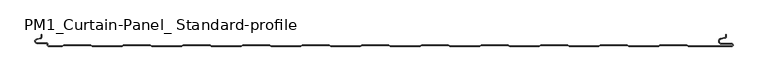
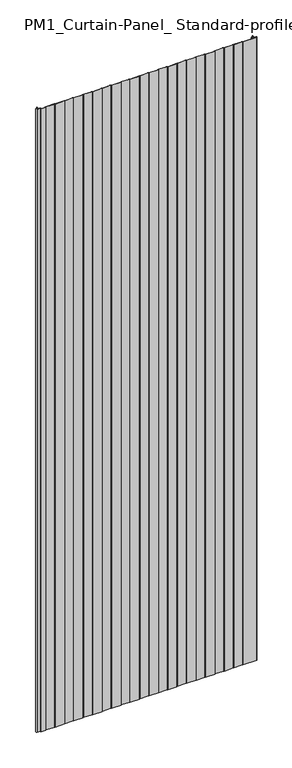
"""IFC4 building model written with IfcOpenShell, lengths in millimetres: plate geometry, PM1_Curtain-Panel_ Standard-profile : ACH_PM1_Acoustic-Sectioning-Panel_80M."""

from ifc_helpers import new_model, si_unit, frame, origin, place, context, project, spatial, polyline, circle_curve, source, transform, mapped, element, save
from ifc_brep_helpers import plane_surface, cylinder_surface, revolved_surface, advanced_brep


def pm1_curtain_panel_standard_profile_f790478e(model_context):
    return source(origin(), model_context, "Body", "AdvancedBrep", [
        advanced_brep(
        [(-562.4, -80.0, 3500.0), (-539.3999999, -80.0, 3500.0), (-536.8019223, -78.5, 3500.0), (-492.0019247, -78.5, 3500.0), (-489.4038471, -80.0, 3500.0), (-439.3999999, -80.0, 3500.0), (-436.8019223, -78.5, 3500.0), (-392.0019247, -78.5, 3500.0), (-389.4038471, -80.0, 3500.0), (-339.3999999, -80.0, 3500.0), (-336.8019223, -78.5, 3500.0), (-292.0019247, -78.5, 3500.0), (-289.4038471, -80.0, 3500.0), (-239.3999999, -80.0, 3500.0), (-236.8019223, -78.5, 3500.0), (-192.0019247, -78.5, 3500.0), (-189.4038471, -80.0, 3500.0), (-139.3999999, -80.0, 3500.0), (-136.8019223, -78.5, 3500.0), (-92.0019247, -78.5, 3500.0), (-89.4038471, -80.0, 3500.0), (-39.3999999, -80.0, 3500.0), (-36.8019223, -78.5, 3500.0), (7.9980753, -78.5, 3500.0), (10.5961529, -80.0, 3500.0), (60.6000001, -80.0, 3500.0), (63.1980777, -78.5, 3500.0), (107.9980753, -78.5, 3500.0), (110.5961529, -80.0, 3500.0), (160.6000001, -80.0, 3500.0), (163.1980777, -78.5, 3500.0), (207.9980753, -78.5, 3500.0), (210.5961529, -80.0, 3500.0), (260.6000001, -80.0, 3500.0), (263.1980777, -78.5, 3500.0), (307.9980753, -78.5, 3500.0), (310.5961529, -80.0, 3500.0), (360.6000001, -80.0, 3500.0), (363.1980777, -78.5, 3500.0), (407.9980753, -78.5, 3500.0), (410.5961529, -80.0, 3500.0), (460.6000001, -80.0, 3500.0), (463.1980777, -78.5, 3500.0), (507.9980753, -78.5, 3500.0), (510.5961529, -80.0, 3500.0), (583.1, -80.0, 3500.0), (585.6, -77.5, 3500.0), (583.1, -75.0, 3500.0), (566.1, -75.0, 3500.0), (565.4054075, -67.060769, 3500.0), (571.8514851, -65.924152, 3500.0), (574.0, -63.363652, 3500.0), (574.0, -60.0, 3500.0), (573.2, -60.0, 3500.0), (573.2, -63.363652, 3500.0), (571.7125666, -65.136306, 3500.0), (565.266489, -66.2729229, 3500.0), (566.1, -75.8, 3500.0), (583.1, -75.8, 3500.0), (583.1, -79.2, 3500.0), (510.8105122, -79.2, 3500.0), (508.2124346, -77.7, 3500.0), (462.9837184, -77.7, 3500.0), (460.3856408, -79.2, 3500.0), (410.8105122, -79.2, 3500.0), (408.2124346, -77.7, 3500.0), (362.9837184, -77.7, 3500.0), (360.3856408, -79.2, 3500.0), (310.8105122, -79.2, 3500.0), (308.2124346, -77.7, 3500.0), (262.9837184, -77.7, 3500.0), (260.3856408, -79.2, 3500.0), (210.8105122, -79.2, 3500.0), (208.2124346, -77.7, 3500.0), (162.9837184, -77.7, 3500.0), (160.3856408, -79.2, 3500.0), (110.8105122, -79.2, 3500.0), (108.2124346, -77.7, 3500.0), (62.9837184, -77.7, 3500.0), (60.3856408, -79.2, 3500.0), (10.8105122, -79.2, 3500.0), (8.2124346, -77.7, 3500.0), (-37.0162816, -77.7, 3500.0), (-39.6143592, -79.2, 3500.0), (-89.1894878, -79.2, 3500.0), (-91.7875654, -77.7, 3500.0), (-137.0162816, -77.7, 3500.0), (-139.6143592, -79.2, 3500.0), (-189.1894878, -79.2, 3500.0), (-191.7875654, -77.7, 3500.0), (-237.0162816, -77.7, 3500.0), (-239.6143592, -79.2, 3500.0), (-289.1894878, -79.2, 3500.0), (-291.7875654, -77.7, 3500.0), (-337.0162816, -77.7, 3500.0), (-339.6143592, -79.2, 3500.0), (-389.1894878, -79.2, 3500.0), (-391.7875654, -77.7, 3500.0), (-437.0162816, -77.7, 3500.0), (-439.6143592, -79.2, 3500.0), (-489.1894878, -79.2, 3500.0), (-491.7875654, -77.7, 3500.0), (-537.0162816, -77.7, 3500.0), (-539.6143592, -79.2, 3500.0), (-562.4, -79.2, 3500.0), (-563.6, -78.0, 3500.0), (-563.6, -76.6, 3500.0), (-566.4, -73.8, 3500.0), (-581.9, -73.8, 3500.0), (-582.529863, -68.2717638, 3500.0), (-576.370137, -66.849679, 3500.0), (-574.2, -64.121443, 3500.0), (-574.2, -60.0, 3500.0), (-575.0, -60.0, 3500.0), (-575.0, -64.121443, 3500.0), (-576.5500978, -66.0701831, 3500.0), (-582.7098239, -67.492268, 3500.0), (-581.9, -74.6, 3500.0), (-566.4, -74.6, 3500.0), (-564.4, -76.6, 3500.0), (-564.4, -78.0, 3500.0), (-562.4, -80.0, 0.0), (-564.4, -78.0, 0.0), (-564.4, -76.6, 0.0), (-566.4, -74.6, 0.0), (-581.9, -74.6, 0.0), (-582.7098239, -67.4922678, 0.0), (-576.5500979, -66.070183, 0.0), (-575.0, -64.121443, 0.0), (-575.0, -60.0, 0.0), (-574.2, -60.0, 0.0), (-574.2, -64.121443, 0.0), (-576.370137, -66.8496792, 0.0), (-582.529863, -68.271764, 0.0), (-581.9, -73.8, 0.0), (-566.4, -73.8, 0.0), (-563.6, -76.6, 0.0), (-563.6, -78.0, 0.0), (-562.4, -79.2, 0.0), (-539.6143592, -79.2, 0.0), (-537.0162816, -77.7, 0.0), (-491.7875654, -77.7, 0.0), (-489.1894878, -79.2, 0.0), (-439.6143592, -79.2, 0.0), (-437.0162816, -77.7, 0.0), (-391.7875654, -77.7, 0.0), (-389.1894878, -79.2, 0.0), (-339.6143592, -79.2, 0.0), (-337.0162816, -77.7, 0.0), (-291.7875654, -77.7, 0.0), (-289.1894878, -79.2, 0.0), (-239.6143592, -79.2, 0.0), (-237.0162816, -77.7, 0.0), (-191.7875654, -77.7, 0.0), (-189.1894878, -79.2, 0.0), (-139.6143592, -79.2, 0.0), (-137.0162816, -77.7, 0.0), (-91.7875654, -77.7, 0.0), (-89.1894878, -79.2, 0.0), (-39.6143592, -79.2, 0.0), (-37.0162816, -77.7, 0.0), (8.2124346, -77.7, 0.0), (10.8105122, -79.2, 0.0), (60.3856408, -79.2, 0.0), (62.9837184, -77.7, 0.0), (108.2124346, -77.7, 0.0), (110.8105122, -79.2, 0.0), (160.3856408, -79.2, 0.0), (162.9837184, -77.7, 0.0), (208.2124346, -77.7, 0.0), (210.8105122, -79.2, 0.0), (260.3856408, -79.2, 0.0), (262.9837184, -77.7, 0.0), (308.2124346, -77.7, 0.0), (310.8105122, -79.2, 0.0), (360.3856408, -79.2, 0.0), (362.9837184, -77.7, 0.0), (408.2124346, -77.7, 0.0), (410.8105122, -79.2, 0.0), (460.3856408, -79.2, 0.0), (462.9837184, -77.7, 0.0), (508.2124346, -77.7, 0.0), (510.8105122, -79.2, 0.0), (583.1, -79.2, 0.0), (583.1, -75.8, 0.0), (566.1, -75.8, 0.0), (565.266489, -66.2729227, 0.0), (571.7125666, -65.1363058, 0.0), (573.2, -63.363652, 0.0), (573.2, -60.0, 0.0), (574.0, -60.0, 0.0), (574.0, -63.363652, 0.0), (571.8514851, -65.9241522, 0.0), (565.4054075, -67.0607691, 0.0), (566.1, -75.0, 0.0), (583.1, -75.0, 0.0), (585.6, -77.5, 0.0), (583.1, -80.0, 0.0), (510.5961529, -80.0, 0.0), (507.9980753, -78.5, 0.0), (463.1980777, -78.5, 0.0), (460.6000001, -80.0, 0.0), (410.5961529, -80.0, 0.0), (407.9980753, -78.5, 0.0), (363.1980777, -78.5, 0.0), (360.6000001, -80.0, 0.0), (310.5961529, -80.0, 0.0), (307.9980753, -78.5, 0.0), (263.1980777, -78.5, 0.0), (260.6000001, -80.0, 0.0), (210.5961529, -80.0, 0.0), (207.9980753, -78.5, 0.0), (163.1980777, -78.5, 0.0), (160.6000001, -80.0, 0.0), (110.5961529, -80.0, 0.0), (107.9980753, -78.5, 0.0), (63.1980777, -78.5, 0.0), (60.6000001, -80.0, 0.0), (10.5961529, -80.0, 0.0), (7.9980753, -78.5, 0.0), (-36.8019223, -78.5, 0.0), (-39.3999999, -80.0, 0.0), (-89.4038471, -80.0, 0.0), (-92.0019247, -78.5, 0.0), (-136.8019223, -78.5, 0.0), (-139.3999999, -80.0, 0.0), (-189.4038471, -80.0, 0.0), (-192.0019247, -78.5, 0.0), (-236.8019223, -78.5, 0.0), (-239.3999999, -80.0, 0.0), (-289.4038471, -80.0, 0.0), (-292.0019247, -78.5, 0.0), (-336.8019223, -78.5, 0.0), (-339.3999999, -80.0, 0.0), (-389.4038471, -80.0, 0.0), (-392.0019247, -78.5, 0.0), (-436.8019223, -78.5, 0.0), (-439.3999999, -80.0, 0.0), (-489.4038471, -80.0, 0.0), (-492.0019247, -78.5, 0.0), (-536.8019223, -78.5, 0.0), (-539.3999999, -80.0, 0.0)],
        [
            (0, 1),
            (1, 2),
            (2, 3),
            (3, 4),
            (4, 5),
            (5, 6),
            (6, 7),
            (7, 8),
            (8, 9),
            (9, 10),
            (10, 11),
            (11, 12),
            (12, 13),
            (13, 14),
            (14, 15),
            (15, 16),
            (16, 17),
            (17, 18),
            (18, 19),
            (19, 20),
            (20, 21),
            (21, 22),
            (22, 23),
            (23, 24),
            (24, 25),
            (25, 26),
            (26, 27),
            (27, 28),
            (28, 29),
            (29, 30),
            (30, 31),
            (31, 32),
            (32, 33),
            (33, 34),
            (34, 35),
            (35, 36),
            (36, 37),
            (37, 38),
            (38, 39),
            (39, 40),
            (40, 41),
            (41, 42),
            (42, 43),
            (43, 44),
            (44, 45),
            (45, 46, circle_curve(frame((583.1, -77.5, 3500.0), z_axis=(0.0, 0.0, 1.0), x_axis=(1.0, 0.0, 0.0)), 2.5)),
            (46, 47, circle_curve(frame((583.1, -77.5, 3500.0), z_axis=(0.0, 0.0, 1.0), x_axis=(1.0, 0.0, 0.0)), 2.5)),
            (47, 48),
            (48, 49, circle_curve(frame((566.1, -71.0, 3500.0), z_axis=(0.0, 0.0, -1.0), x_axis=(1.0, 0.0, 0.0)), 4.0)),
            (49, 50),
            (50, 51, circle_curve(frame((571.4, -63.363652, 3500.0), z_axis=(0.0, 0.0, 1.0), x_axis=(1.0, 0.0, 0.0)), 2.6)),
            (51, 52),
            (52, 53),
            (53, 54),
            (54, 55, circle_curve(frame((571.4, -63.363652, 3500.0), z_axis=(0.0, 0.0, -1.0), x_axis=(1.0, 0.0, 0.0)), 1.8)),
            (55, 56),
            (56, 57, circle_curve(frame((566.1, -71.0, 3500.0), z_axis=(0.0, 0.0, 1.0), x_axis=(1.0, 0.0, 0.0)), 4.8)),
            (57, 58),
            (58, 59, circle_curve(frame((583.1, -77.5, 3500.0), z_axis=(0.0, 0.0, -1.0), x_axis=(1.0, 0.0, 0.0)), 1.7)),
            (59, 60),
            (60, 61),
            (61, 62),
            (62, 63),
            (63, 64),
            (64, 65),
            (65, 66),
            (66, 67),
            (67, 68),
            (68, 69),
            (69, 70),
            (70, 71),
            (71, 72),
            (72, 73),
            (73, 74),
            (74, 75),
            (75, 76),
            (76, 77),
            (77, 78),
            (78, 79),
            (79, 80),
            (80, 81),
            (81, 82),
            (82, 83),
            (83, 84),
            (84, 85),
            (85, 86),
            (86, 87),
            (87, 88),
            (88, 89),
            (89, 90),
            (90, 91),
            (91, 92),
            (92, 93),
            (93, 94),
            (94, 95),
            (95, 96),
            (96, 97),
            (97, 98),
            (98, 99),
            (99, 100),
            (100, 101),
            (101, 102),
            (102, 103),
            (103, 104),
            (104, 105, circle_curve(frame((-562.4, -78.0, 3500.0), z_axis=(0.0, 0.0, -1.0), x_axis=(1.0, 0.0, 0.0)), 1.2)),
            (105, 106),
            (106, 107, circle_curve(frame((-566.4, -76.6, 3500.0), z_axis=(0.0, 0.0, 1.0), x_axis=(1.0, 0.0, 0.0)), 2.8)),
            (107, 108),
            (108, 109, circle_curve(frame((-581.9, -71.0, 3500.0), z_axis=(0.0, 0.0, -1.0), x_axis=(1.0, 0.0, 0.0)), 2.8)),
            (109, 110),
            (110, 111, circle_curve(frame((-577.0, -64.121443, 3500.0), z_axis=(0.0, 0.0, 1.0), x_axis=(1.0, 0.0, 0.0)), 2.8)),
            (111, 112),
            (112, 113),
            (113, 114),
            (114, 115, circle_curve(frame((-577.0, -64.121443, 3500.0), z_axis=(0.0, 0.0, -1.0), x_axis=(1.0, 0.0, 0.0)), 2.0)),
            (115, 116),
            (116, 117, circle_curve(frame((-581.9, -71.0, 3500.0), z_axis=(0.0, 0.0, 1.0), x_axis=(1.0, 0.0, 0.0)), 3.6)),
            (117, 118),
            (118, 119, circle_curve(frame((-566.4, -76.6, 3500.0), z_axis=(0.0, 0.0, -1.0), x_axis=(1.0, 0.0, 0.0)), 2.0)),
            (119, 120),
            (120, 0, circle_curve(frame((-562.4, -78.0, 3500.0), z_axis=(0.0, 0.0, 1.0), x_axis=(1.0, 0.0, 0.0)), 2.0)),
            (121, 122, circle_curve(frame((-562.4, -78.0, 0.0), z_axis=(0.0, 0.0, -1.0), x_axis=(1.0, 0.0, 0.0)), 2.0)),
            (122, 123),
            (123, 124, circle_curve(frame((-566.4, -76.6, 0.0), z_axis=(0.0, 0.0, 1.0), x_axis=(1.0, 0.0, 0.0)), 2.0)),
            (124, 125),
            (125, 126, circle_curve(frame((-581.9, -71.0, 0.0), z_axis=(0.0, 0.0, -1.0), x_axis=(1.0, 0.0, 0.0)), 3.6)),
            (126, 127),
            (127, 128, circle_curve(frame((-577.0, -64.121443, 0.0), z_axis=(0.0, 0.0, 1.0), x_axis=(1.0, 0.0, 0.0)), 2.0)),
            (128, 129),
            (129, 130),
            (130, 131),
            (131, 132, circle_curve(frame((-577.0, -64.121443, 0.0), z_axis=(0.0, 0.0, -1.0), x_axis=(1.0, 0.0, 0.0)), 2.8)),
            (132, 133),
            (133, 134, circle_curve(frame((-581.9, -71.0, 0.0), z_axis=(0.0, 0.0, 1.0), x_axis=(1.0, 0.0, 0.0)), 2.8)),
            (134, 135),
            (135, 136, circle_curve(frame((-566.4, -76.6, 0.0), z_axis=(0.0, 0.0, -1.0), x_axis=(1.0, 0.0, 0.0)), 2.8)),
            (136, 137),
            (137, 138, circle_curve(frame((-562.4, -78.0, 0.0), z_axis=(0.0, 0.0, 1.0), x_axis=(1.0, 0.0, 0.0)), 1.2)),
            (138, 139),
            (139, 140),
            (140, 141),
            (141, 142),
            (142, 143),
            (143, 144),
            (144, 145),
            (145, 146),
            (146, 147),
            (147, 148),
            (148, 149),
            (149, 150),
            (150, 151),
            (151, 152),
            (152, 153),
            (153, 154),
            (154, 155),
            (155, 156),
            (156, 157),
            (157, 158),
            (158, 159),
            (159, 160),
            (160, 161),
            (161, 162),
            (162, 163),
            (163, 164),
            (164, 165),
            (165, 166),
            (166, 167),
            (167, 168),
            (168, 169),
            (169, 170),
            (170, 171),
            (171, 172),
            (172, 173),
            (173, 174),
            (174, 175),
            (175, 176),
            (176, 177),
            (177, 178),
            (178, 179),
            (179, 180),
            (180, 181),
            (181, 182),
            (182, 183),
            (183, 184, circle_curve(frame((583.1, -77.5, 0.0), z_axis=(0.0, 0.0, 1.0), x_axis=(1.0, 0.0, 0.0)), 1.7)),
            (184, 185),
            (185, 186, circle_curve(frame((566.1, -71.0, 0.0), z_axis=(0.0, 0.0, -1.0), x_axis=(1.0, 0.0, 0.0)), 4.8)),
            (186, 187),
            (187, 188, circle_curve(frame((571.4, -63.363652, 0.0), z_axis=(0.0, 0.0, 1.0), x_axis=(1.0, 0.0, 0.0)), 1.8)),
            (188, 189),
            (189, 190),
            (190, 191),
            (191, 192, circle_curve(frame((571.4, -63.363652, 0.0), z_axis=(0.0, 0.0, -1.0), x_axis=(1.0, 0.0, 0.0)), 2.6)),
            (192, 193),
            (193, 194, circle_curve(frame((566.1, -71.0, 0.0), z_axis=(0.0, 0.0, 1.0), x_axis=(1.0, 0.0, 0.0)), 4.0)),
            (194, 195),
            (195, 196, circle_curve(frame((583.1, -77.5, 0.0), z_axis=(0.0, 0.0, -1.0), x_axis=(1.0, 0.0, 0.0)), 2.5)),
            (196, 197, circle_curve(frame((583.1, -77.5, 0.0), z_axis=(0.0, 0.0, -1.0), x_axis=(1.0, 0.0, 0.0)), 2.5)),
            (197, 198),
            (198, 199),
            (199, 200),
            (200, 201),
            (201, 202),
            (202, 203),
            (203, 204),
            (204, 205),
            (205, 206),
            (206, 207),
            (207, 208),
            (208, 209),
            (209, 210),
            (210, 211),
            (211, 212),
            (212, 213),
            (213, 214),
            (214, 215),
            (215, 216),
            (216, 217),
            (217, 218),
            (218, 219),
            (219, 220),
            (220, 221),
            (221, 222),
            (222, 223),
            (223, 224),
            (224, 225),
            (225, 226),
            (226, 227),
            (227, 228),
            (228, 229),
            (229, 230),
            (230, 231),
            (231, 232),
            (232, 233),
            (233, 234),
            (234, 235),
            (235, 236),
            (236, 237),
            (237, 238),
            (238, 239),
            (239, 240),
            (240, 241),
            (241, 121),
            (0, 121),
            (241, 1),
            (240, 2),
            (239, 3),
            (238, 4),
            (237, 5),
            (236, 6),
            (235, 7),
            (234, 8),
            (233, 9),
            (232, 10),
            (231, 11),
            (230, 12),
            (229, 13),
            (228, 14),
            (227, 15),
            (226, 16),
            (225, 17),
            (224, 18),
            (223, 19),
            (222, 20),
            (221, 21),
            (220, 22),
            (219, 23),
            (218, 24),
            (217, 25),
            (216, 26),
            (215, 27),
            (214, 28),
            (213, 29),
            (212, 30),
            (211, 31),
            (210, 32),
            (209, 33),
            (208, 34),
            (207, 35),
            (206, 36),
            (205, 37),
            (204, 38),
            (203, 39),
            (202, 40),
            (201, 41),
            (200, 42),
            (199, 43),
            (198, 44),
            (197, 45),
            (195, 47),
            (194, 48),
            (193, 49),
            (192, 50),
            (191, 51),
            (190, 52),
            (189, 53),
            (188, 54),
            (187, 55),
            (186, 56),
            (185, 57),
            (184, 58),
            (183, 59),
            (182, 60),
            (181, 61),
            (180, 62),
            (179, 63),
            (178, 64),
            (177, 65),
            (176, 66),
            (175, 67),
            (174, 68),
            (173, 69),
            (172, 70),
            (171, 71),
            (170, 72),
            (169, 73),
            (168, 74),
            (167, 75),
            (166, 76),
            (165, 77),
            (164, 78),
            (163, 79),
            (162, 80),
            (161, 81),
            (160, 82),
            (159, 83),
            (158, 84),
            (157, 85),
            (156, 86),
            (155, 87),
            (154, 88),
            (153, 89),
            (152, 90),
            (151, 91),
            (150, 92),
            (149, 93),
            (148, 94),
            (147, 95),
            (146, 96),
            (145, 97),
            (144, 98),
            (143, 99),
            (142, 100),
            (141, 101),
            (140, 102),
            (139, 103),
            (138, 104),
            (137, 105),
            (136, 106),
            (135, 107),
            (134, 108),
            (133, 109),
            (132, 110),
            (131, 111),
            (130, 112),
            (129, 113),
            (128, 114),
            (127, 115),
            (126, 116),
            (125, 117),
            (124, 118),
            (123, 119),
            (122, 120),
        ],
        [
            plane_surface(frame((-575.0, -80.0, 3500.0), z_axis=(0.0, 0.0, 1.0), x_axis=(0.0, 1.0, 0.0))),
            plane_surface(frame((-575.0, -80.0, 0.0), z_axis=(0.0, 0.0, -1.0), x_axis=(0.0, 1.0, 0.0))),
            plane_surface(frame((-562.4, -80.0, 3500.0), z_axis=(0.0, -1.0, 0.0), x_axis=(0.0, 0.0, -1.0))),
            plane_surface(frame((-539.3999999, -80.0, 3500.0), z_axis=(0.49999979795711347, -0.8660255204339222, 0.0), x_axis=(0.0, 0.0, -1.0))),
            plane_surface(frame((-536.8019223, -78.5, 3500.0), z_axis=(0.0, -1.0, 0.0), x_axis=(0.0, 0.0, -1.0))),
            plane_surface(frame((-492.0019247, -78.5, 3500.0), z_axis=(-0.49999979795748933, -0.8660255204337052, 0.0), x_axis=(0.0, 0.0, -1.0))),
            plane_surface(frame((-489.4038471, -80.0, 3500.0), z_axis=(0.0, -1.0, 0.0), x_axis=(0.0, 0.0, -1.0))),
            plane_surface(frame((-439.3999999, -80.0, 3500.0), z_axis=(0.49999979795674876, -0.8660255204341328, 0.0), x_axis=(0.0, 0.0, -1.0))),
            plane_surface(frame((-436.8019223, -78.5, 3500.0), z_axis=(0.0, -1.0, 0.0), x_axis=(0.0, 0.0, -1.0))),
            plane_surface(frame((-392.0019247, -78.5, 3500.0), z_axis=(-0.4999997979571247, -0.8660255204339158, 0.0), x_axis=(0.0, 0.0, -1.0))),
            plane_surface(frame((-389.4038471, -80.0, 3500.0), z_axis=(0.0, -1.0, 0.0), x_axis=(0.0, 0.0, -1.0))),
            plane_surface(frame((-339.3999999, -80.0, 3500.0), z_axis=(0.49999979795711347, -0.8660255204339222, 0.0), x_axis=(0.0, 0.0, -1.0))),
            plane_surface(frame((-336.8019223, -78.5, 3500.0), z_axis=(0.0, -1.0, 0.0), x_axis=(0.0, 0.0, -1.0))),
            plane_surface(frame((-292.0019247, -78.5, 3500.0), z_axis=(-0.4999997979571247, -0.8660255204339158, 0.0), x_axis=(0.0, 0.0, -1.0))),
            plane_surface(frame((-289.4038471, -80.0, 3500.0), z_axis=(0.0, -1.0, 0.0), x_axis=(0.0, 0.0, -1.0))),
            plane_surface(frame((-239.3999999, -80.0, 3500.0), z_axis=(0.49999979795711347, -0.8660255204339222, 0.0), x_axis=(0.0, 0.0, -1.0))),
            plane_surface(frame((-236.8019223, -78.5, 3500.0), z_axis=(0.0, -1.0, 0.0), x_axis=(0.0, 0.0, -1.0))),
            plane_surface(frame((-192.0019247, -78.5, 3500.0), z_axis=(-0.49999979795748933, -0.8660255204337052, 0.0), x_axis=(0.0, 0.0, -1.0))),
            plane_surface(frame((-189.4038471, -80.0, 3500.0), z_axis=(0.0, -1.0, 0.0), x_axis=(0.0, 0.0, -1.0))),
            plane_surface(frame((-139.3999999, -80.0, 3500.0), z_axis=(0.49999979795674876, -0.8660255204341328, 0.0), x_axis=(0.0, 0.0, -1.0))),
            plane_surface(frame((-136.8019223, -78.5, 3500.0), z_axis=(0.0, -1.0, 0.0), x_axis=(0.0, 0.0, -1.0))),
            plane_surface(frame((-92.0019247, -78.5, 3500.0), z_axis=(-0.4999997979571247, -0.8660255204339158, 0.0), x_axis=(0.0, 0.0, -1.0))),
            plane_surface(frame((-89.4038471, -80.0, 3500.0), z_axis=(0.0, -1.0, 0.0), x_axis=(0.0, 0.0, -1.0))),
            plane_surface(frame((-39.3999999, -80.0, 3500.0), z_axis=(0.49999979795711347, -0.8660255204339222, 0.0), x_axis=(0.0, 0.0, -1.0))),
            plane_surface(frame((-36.8019223, -78.5, 3500.0), z_axis=(0.0, -1.0, 0.0), x_axis=(0.0, 0.0, -1.0))),
            plane_surface(frame((7.9980753, -78.5, 3500.0), z_axis=(-0.4999997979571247, -0.8660255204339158, 0.0), x_axis=(0.0, 0.0, -1.0))),
            plane_surface(frame((10.5961529, -80.0, 3500.0), z_axis=(0.0, -1.0, 0.0), x_axis=(0.0, 0.0, -1.0))),
            plane_surface(frame((60.6000001, -80.0, 3500.0), z_axis=(0.49999979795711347, -0.8660255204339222, 0.0), x_axis=(0.0, 0.0, -1.0))),
            plane_surface(frame((63.1980777, -78.5, 3500.0), z_axis=(0.0, -1.0, 0.0), x_axis=(0.0, 0.0, -1.0))),
            plane_surface(frame((107.9980753, -78.5, 3500.0), z_axis=(-0.49999979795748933, -0.8660255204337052, 0.0), x_axis=(0.0, 0.0, -1.0))),
            plane_surface(frame((110.5961529, -80.0, 3500.0), z_axis=(0.0, -1.0, 0.0), x_axis=(0.0, 0.0, -1.0))),
            plane_surface(frame((160.6000001, -80.0, 3500.0), z_axis=(0.49999979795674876, -0.8660255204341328, 0.0), x_axis=(0.0, 0.0, -1.0))),
            plane_surface(frame((163.1980777, -78.5, 3500.0), z_axis=(0.0, -1.0, 0.0), x_axis=(0.0, 0.0, -1.0))),
            plane_surface(frame((207.9980753, -78.5, 3500.0), z_axis=(-0.4999997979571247, -0.8660255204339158, 0.0), x_axis=(0.0, 0.0, -1.0))),
            plane_surface(frame((210.5961529, -80.0, 3500.0), z_axis=(0.0, -1.0, 0.0), x_axis=(0.0, 0.0, -1.0))),
            plane_surface(frame((260.6000001, -80.0, 3500.0), z_axis=(0.49999979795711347, -0.8660255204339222, 0.0), x_axis=(0.0, 0.0, -1.0))),
            plane_surface(frame((263.1980777, -78.5, 3500.0), z_axis=(0.0, -1.0, 0.0), x_axis=(0.0, 0.0, -1.0))),
            plane_surface(frame((307.9980753, -78.5, 3500.0), z_axis=(-0.4999997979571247, -0.8660255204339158, 0.0), x_axis=(0.0, 0.0, -1.0))),
            plane_surface(frame((310.5961529, -80.0, 3500.0), z_axis=(0.0, -1.0, 0.0), x_axis=(0.0, 0.0, -1.0))),
            plane_surface(frame((360.6000001, -80.0, 3500.0), z_axis=(0.49999979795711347, -0.8660255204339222, 0.0), x_axis=(0.0, 0.0, -1.0))),
            plane_surface(frame((363.1980777, -78.5, 3500.0), z_axis=(0.0, -1.0, 0.0), x_axis=(0.0, 0.0, -1.0))),
            plane_surface(frame((407.9980753, -78.5, 3500.0), z_axis=(-0.49999979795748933, -0.8660255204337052, 0.0), x_axis=(0.0, 0.0, -1.0))),
            plane_surface(frame((410.5961529, -80.0, 3500.0), z_axis=(0.0, -1.0, 0.0), x_axis=(0.0, 0.0, -1.0))),
            plane_surface(frame((460.6000001, -80.0, 3500.0), z_axis=(0.49999979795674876, -0.8660255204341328, 0.0), x_axis=(0.0, 0.0, -1.0))),
            plane_surface(frame((463.1980777, -78.5, 3500.0), z_axis=(0.0, -1.0, 0.0), x_axis=(0.0, 0.0, -1.0))),
            plane_surface(frame((507.9980753, -78.5, 3500.0), z_axis=(-0.4999997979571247, -0.8660255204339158, 0.0), x_axis=(0.0, 0.0, -1.0))),
            plane_surface(frame((560.890897, -80.0, 3500.0), z_axis=(0.0, -1.0, 0.0), x_axis=(0.0, 0.0, -1.0))),
            cylinder_surface(frame((583.1, -77.5, 3500.0), z_axis=(0.0, 0.0, 1.0), x_axis=(1.0, 0.0, 0.0)), 2.5),
            plane_surface(frame((583.1, -75.0, 3500.0), z_axis=(0.0, 1.0, 0.0), x_axis=(0.0, 0.0, -1.0))),
            revolved_surface(polyline([(570.1, -71.0, 0.0), (570.1, -71.0, 3500.0)]), (566.1, -71.0, 3500.0), (0.0, 0.0, -1.0)),
            plane_surface(frame((565.4054075, -67.0607691, 3500.0), z_axis=(0.17364813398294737, -0.9848077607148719, 0.0), x_axis=(0.0, 0.0, -1.0))),
            cylinder_surface(frame((571.4, -63.363652, 3500.0), z_axis=(0.0, 0.0, 1.0), x_axis=(1.0, 0.0, 0.0)), 2.6),
            plane_surface(frame((574.0, -63.363652, 3500.0), z_axis=(1.0, 0.0, 0.0), x_axis=(0.0, 0.0, -1.0))),
            plane_surface(frame((574.0, -60.0, 3500.0), z_axis=(0.0, 1.0, 0.0), x_axis=(0.0, 0.0, -1.0))),
            plane_surface(frame((573.2, -60.0, 3500.0), z_axis=(-1.0, 0.0, 0.0), x_axis=(0.0, 0.0, -1.0))),
            revolved_surface(polyline([(573.1999999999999, -63.363652, 0.0), (573.1999999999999, -63.363652, 3500.0)]), (571.4, -63.363652, 3500.0), (0.0, 0.0, -1.0)),
            plane_surface(frame((571.7125666, -65.1363058, 3500.0), z_axis=(-0.17364813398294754, 0.9848077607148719, 0.0), x_axis=(0.0, 0.0, -1.0))),
            cylinder_surface(frame((566.1, -71.0, 3500.0), z_axis=(0.0, 0.0, 1.0), x_axis=(1.0, 0.0, 0.0)), 4.8),
            plane_surface(frame((566.1, -75.8, 3500.0), z_axis=(0.0, -1.0, 0.0), x_axis=(0.0, 0.0, -1.0))),
            revolved_surface(polyline([(584.8000000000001, -77.5, 0.0), (584.8000000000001, -77.5, 3500.0)]), (583.1, -77.5, 3500.0), (0.0, 0.0, -1.0)),
            plane_surface(frame((560.890897, -79.2, 3500.0), z_axis=(0.0, 1.0, 0.0), x_axis=(0.0, 0.0, -1.0))),
            plane_surface(frame((510.8105122, -79.2, 3500.0), z_axis=(0.49999979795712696, 0.8660255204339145, 0.0), x_axis=(0.0, 0.0, -1.0))),
            plane_surface(frame((508.2124346, -77.7, 3500.0), z_axis=(0.0, 1.0, 0.0), x_axis=(0.0, 0.0, -1.0))),
            plane_surface(frame((462.9837184, -77.7, 3500.0), z_axis=(-0.4999997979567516, 0.8660255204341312, 0.0), x_axis=(0.0, 0.0, -1.0))),
            plane_surface(frame((460.3856408, -79.2, 3500.0), z_axis=(0.0, 1.0, 0.0), x_axis=(0.0, 0.0, -1.0))),
            plane_surface(frame((410.8105122, -79.2, 3500.0), z_axis=(0.4999997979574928, 0.8660255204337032, 0.0), x_axis=(0.0, 0.0, -1.0))),
            plane_surface(frame((408.2124346, -77.7, 3500.0), z_axis=(0.0, 1.0, 0.0), x_axis=(0.0, 0.0, -1.0))),
            plane_surface(frame((362.9837184, -77.7, 3500.0), z_axis=(-0.49999979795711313, 0.8660255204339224, 0.0), x_axis=(0.0, 0.0, -1.0))),
            plane_surface(frame((360.3856408, -79.2, 3500.0), z_axis=(0.0, 1.0, 0.0), x_axis=(0.0, 0.0, -1.0))),
            plane_surface(frame((310.8105122, -79.2, 3500.0), z_axis=(0.4999997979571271, 0.8660255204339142, 0.0), x_axis=(0.0, 0.0, -1.0))),
            plane_surface(frame((308.2124346, -77.7, 3500.0), z_axis=(0.0, 1.0, 0.0), x_axis=(0.0, 0.0, -1.0))),
            plane_surface(frame((262.9837184, -77.7, 3500.0), z_axis=(-0.49999979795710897, 0.8660255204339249, 0.0), x_axis=(0.0, 0.0, -1.0))),
            plane_surface(frame((260.3856408, -79.2, 3500.0), z_axis=(0.0, 1.0, 0.0), x_axis=(0.0, 0.0, -1.0))),
            plane_surface(frame((210.8105122, -79.2, 3500.0), z_axis=(0.4999997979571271, 0.8660255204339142, 0.0), x_axis=(0.0, 0.0, -1.0))),
            plane_surface(frame((208.2124346, -77.7, 3500.0), z_axis=(0.0, 1.0, 0.0), x_axis=(0.0, 0.0, -1.0))),
            plane_surface(frame((162.9837184, -77.7, 3500.0), z_axis=(-0.4999997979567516, 0.8660255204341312, 0.0), x_axis=(0.0, 0.0, -1.0))),
            plane_surface(frame((160.3856408, -79.2, 3500.0), z_axis=(0.0, 1.0, 0.0), x_axis=(0.0, 0.0, -1.0))),
            plane_surface(frame((110.8105122, -79.2, 3500.0), z_axis=(0.49999979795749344, 0.8660255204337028, 0.0), x_axis=(0.0, 0.0, -1.0))),
            plane_surface(frame((108.2124346, -77.7, 3500.0), z_axis=(0.0, 1.0, 0.0), x_axis=(0.0, 0.0, -1.0))),
            plane_surface(frame((62.9837184, -77.7, 3500.0), z_axis=(-0.49999979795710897, 0.8660255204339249, 0.0), x_axis=(0.0, 0.0, -1.0))),
            plane_surface(frame((60.3856408, -79.2, 3500.0), z_axis=(0.0, 1.0, 0.0), x_axis=(0.0, 0.0, -1.0))),
            plane_surface(frame((10.8105122, -79.2, 3500.0), z_axis=(0.4999997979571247, 0.8660255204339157, 0.0), x_axis=(0.0, 0.0, -1.0))),
            plane_surface(frame((8.2124346, -77.7, 3500.0), z_axis=(0.0, 1.0, 0.0), x_axis=(0.0, 0.0, -1.0))),
            plane_surface(frame((-37.0162816, -77.7, 3500.0), z_axis=(-0.49999979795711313, 0.8660255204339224, 0.0), x_axis=(0.0, 0.0, -1.0))),
            plane_surface(frame((-39.6143592, -79.2, 3500.0), z_axis=(0.0, 1.0, 0.0), x_axis=(0.0, 0.0, -1.0))),
            plane_surface(frame((-89.1894878, -79.2, 3500.0), z_axis=(0.4999997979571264, 0.8660255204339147, 0.0), x_axis=(0.0, 0.0, -1.0))),
            plane_surface(frame((-91.7875654, -77.7, 3500.0), z_axis=(0.0, 1.0, 0.0), x_axis=(0.0, 0.0, -1.0))),
            plane_surface(frame((-137.0162816, -77.7, 3500.0), z_axis=(-0.49999979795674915, 0.8660255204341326, 0.0), x_axis=(0.0, 0.0, -1.0))),
            plane_surface(frame((-139.6143592, -79.2, 3500.0), z_axis=(0.0, 1.0, 0.0), x_axis=(0.0, 0.0, -1.0))),
            plane_surface(frame((-189.1894878, -79.2, 3500.0), z_axis=(0.49999979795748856, 0.8660255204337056, 0.0), x_axis=(0.0, 0.0, -1.0))),
            plane_surface(frame((-191.7875654, -77.7, 3500.0), z_axis=(0.0, 1.0, 0.0), x_axis=(0.0, 0.0, -1.0))),
            plane_surface(frame((-237.0162816, -77.7, 3500.0), z_axis=(-0.4999997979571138, 0.866025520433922, 0.0), x_axis=(0.0, 0.0, -1.0))),
            plane_surface(frame((-239.6143592, -79.2, 3500.0), z_axis=(0.0, 1.0, 0.0), x_axis=(0.0, 0.0, -1.0))),
            plane_surface(frame((-289.1894878, -79.2, 3500.0), z_axis=(0.49999979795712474, 0.8660255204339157, 0.0), x_axis=(0.0, 0.0, -1.0))),
            plane_surface(frame((-291.7875654, -77.7, 3500.0), z_axis=(0.0, 1.0, 0.0), x_axis=(0.0, 0.0, -1.0))),
            plane_surface(frame((-337.0162816, -77.7, 3500.0), z_axis=(-0.49999979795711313, 0.8660255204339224, 0.0), x_axis=(0.0, 0.0, -1.0))),
            plane_surface(frame((-339.6143592, -79.2, 3500.0), z_axis=(0.0, 1.0, 0.0), x_axis=(0.0, 0.0, -1.0))),
            plane_surface(frame((-389.1894878, -79.2, 3500.0), z_axis=(0.49999979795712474, 0.8660255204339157, 0.0), x_axis=(0.0, 0.0, -1.0))),
            plane_surface(frame((-391.7875654, -77.7, 3500.0), z_axis=(0.0, 1.0, 0.0), x_axis=(0.0, 0.0, -1.0))),
            plane_surface(frame((-437.0162816, -77.7, 3500.0), z_axis=(-0.49999979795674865, 0.8660255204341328, 0.0), x_axis=(0.0, 0.0, -1.0))),
            plane_surface(frame((-439.6143592, -79.2, 3500.0), z_axis=(0.0, 1.0, 0.0), x_axis=(0.0, 0.0, -1.0))),
            plane_surface(frame((-489.1894878, -79.2, 3500.0), z_axis=(0.49999979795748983, 0.866025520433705, 0.0), x_axis=(0.0, 0.0, -1.0))),
            plane_surface(frame((-491.7875654, -77.7, 3500.0), z_axis=(0.0, 1.0, 0.0), x_axis=(0.0, 0.0, -1.0))),
            plane_surface(frame((-537.0162816, -77.7, 3500.0), z_axis=(-0.49999979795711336, 0.8660255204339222, 0.0), x_axis=(0.0, 0.0, -1.0))),
            plane_surface(frame((-539.6143592, -79.2, 3500.0), z_axis=(0.0, 1.0, 0.0), x_axis=(0.0, 0.0, -1.0))),
            revolved_surface(polyline([(-561.1999999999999, -78.0, 0.0), (-561.1999999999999, -78.0, 3500.0)]), (-562.4, -78.0, 3500.0), (0.0, 0.0, -1.0)),
            plane_surface(frame((-563.6, -78.0, 3500.0), z_axis=(1.0, 0.0, 0.0), x_axis=(0.0, 0.0, -1.0))),
            cylinder_surface(frame((-566.4, -76.6, 3500.0), z_axis=(0.0, 0.0, 1.0), x_axis=(1.0, 0.0, 0.0)), 2.8),
            plane_surface(frame((-566.4, -73.8, 3500.0), z_axis=(0.0, 1.0, 0.0), x_axis=(0.0, 0.0, -1.0))),
            revolved_surface(polyline([(-579.1, -71.0, 0.0), (-579.1, -71.0, 3500.0)]), (-581.9, -71.0, 3500.0), (0.0, 0.0, -1.0)),
            plane_surface(frame((-582.529863, -68.271764, 3500.0), z_axis=(0.2249510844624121, -0.9743700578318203, 0.0), x_axis=(0.0, 0.0, -1.0))),
            cylinder_surface(frame((-577.0, -64.121443, 3500.0), z_axis=(0.0, 0.0, 1.0), x_axis=(1.0, 0.0, 0.0)), 2.8),
            plane_surface(frame((-574.2, -64.121443, 3500.0), z_axis=(1.0, 0.0, 0.0), x_axis=(0.0, 0.0, -1.0))),
            plane_surface(frame((-574.2, -60.0, 3500.0), z_axis=(0.0, 1.0, 0.0), x_axis=(0.0, 0.0, -1.0))),
            plane_surface(frame((-575.0, -60.0, 3500.0), z_axis=(-1.0, 0.0, 0.0), x_axis=(0.0, 0.0, -1.0))),
            revolved_surface(polyline([(-575.0, -64.121443, 0.0), (-575.0, -64.121443, 3500.0)]), (-577.0, -64.121443, 3500.0), (0.0, 0.0, -1.0)),
            plane_surface(frame((-576.5500979, -66.070183, 3500.0), z_axis=(-0.22495108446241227, 0.9743700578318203, 0.0), x_axis=(0.0, 0.0, -1.0))),
            cylinder_surface(frame((-581.9, -71.0, 3500.0), z_axis=(0.0, 0.0, 1.0), x_axis=(1.0, 0.0, 0.0)), 3.6),
            plane_surface(frame((-581.9, -74.6, 3500.0), z_axis=(0.0, -1.0, 0.0), x_axis=(0.0, 0.0, -1.0))),
            revolved_surface(polyline([(-564.4, -76.6, 0.0), (-564.4, -76.6, 3500.0)]), (-566.4, -76.6, 3500.0), (0.0, 0.0, -1.0)),
            plane_surface(frame((-564.4, -76.6, 3500.0), z_axis=(-1.0, 0.0, 0.0), x_axis=(0.0, 0.0, -1.0))),
            cylinder_surface(frame((-562.4, -78.0, 3500.0), z_axis=(0.0, 0.0, 1.0), x_axis=(1.0, 0.0, 0.0)), 2.0),
        ],
        [
            (0, [[1, 2, 3, 4, 5, 6, 7, 8, 9, 10, 11, 12, 13, 14, 15, 16, 17, 18, 19, 20, 21, 22, 23, 24, 25, 26, 27, 28, 29, 30, 31, 32, 33, 34, 35, 36, 37, 38, 39, 40, 41, 42, 43, 44, 45, 46, 47, 48, 49, 50, 51, 52, 53, 54, 55, 56, 57, 58, 59, 60, 61, 62, 63, 64, 65, 66, 67, 68, 69, 70, 71, 72, 73, 74, 75, 76, 77, 78, 79, 80, 81, 82, 83, 84, 85, 86, 87, 88, 89, 90, 91, 92, 93, 94, 95, 96, 97, 98, 99, 100, 101, 102, 103, 104, 105, 106, 107, 108, 109, 110, 111, 112, 113, 114, 115, 116, 117, 118, 119, 120, 121]]),
            (1, [[122, 123, 124, 125, 126, 127, 128, 129, 130, 131, 132, 133, 134, 135, 136, 137, 138, 139, 140, 141, 142, 143, 144, 145, 146, 147, 148, 149, 150, 151, 152, 153, 154, 155, 156, 157, 158, 159, 160, 161, 162, 163, 164, 165, 166, 167, 168, 169, 170, 171, 172, 173, 174, 175, 176, 177, 178, 179, 180, 181, 182, 183, 184, 185, 186, 187, 188, 189, 190, 191, 192, 193, 194, 195, 196, 197, 198, 199, 200, 201, 202, 203, 204, 205, 206, 207, 208, 209, 210, 211, 212, 213, 214, 215, 216, 217, 218, 219, 220, 221, 222, 223, 224, 225, 226, 227, 228, 229, 230, 231, 232, 233, 234, 235, 236, 237, 238, 239, 240, 241, 242]]),
            (2, [[-1, 243, -242, 244]]),
            (3, [[-2, -244, -241, 245]]),
            (4, [[-3, -245, -240, 246]]),
            (5, [[-4, -246, -239, 247]]),
            (6, [[-5, -247, -238, 248]]),
            (7, [[-6, -248, -237, 249]]),
            (8, [[-7, -249, -236, 250]]),
            (9, [[-8, -250, -235, 251]]),
            (10, [[-9, -251, -234, 252]]),
            (11, [[-10, -252, -233, 253]]),
            (12, [[-11, -253, -232, 254]]),
            (13, [[-12, -254, -231, 255]]),
            (14, [[-13, -255, -230, 256]]),
            (15, [[-14, -256, -229, 257]]),
            (16, [[-15, -257, -228, 258]]),
            (17, [[-16, -258, -227, 259]]),
            (18, [[-17, -259, -226, 260]]),
            (19, [[-18, -260, -225, 261]]),
            (20, [[-19, -261, -224, 262]]),
            (21, [[-20, -262, -223, 263]]),
            (22, [[-21, -263, -222, 264]]),
            (23, [[-22, -264, -221, 265]]),
            (24, [[-23, -265, -220, 266]]),
            (25, [[-24, -266, -219, 267]]),
            (26, [[-25, -267, -218, 268]]),
            (27, [[-26, -268, -217, 269]]),
            (28, [[-27, -269, -216, 270]]),
            (29, [[-28, -270, -215, 271]]),
            (30, [[-29, -271, -214, 272]]),
            (31, [[-30, -272, -213, 273]]),
            (32, [[-31, -273, -212, 274]]),
            (33, [[-32, -274, -211, 275]]),
            (34, [[-33, -275, -210, 276]]),
            (35, [[-34, -276, -209, 277]]),
            (36, [[-35, -277, -208, 278]]),
            (37, [[-36, -278, -207, 279]]),
            (38, [[-37, -279, -206, 280]]),
            (39, [[-38, -280, -205, 281]]),
            (40, [[-39, -281, -204, 282]]),
            (41, [[-40, -282, -203, 283]]),
            (42, [[-41, -283, -202, 284]]),
            (43, [[-42, -284, -201, 285]]),
            (44, [[-43, -285, -200, 286]]),
            (45, [[-44, -286, -199, 287]]),
            (46, [[-45, -287, -198, 288]]),
            (47, [[-288, -197, -196, 289, -47, -46]]),
            (48, [[-48, -289, -195, 290]]),
            (49, [[-49, -290, -194, 291]]),
            (50, [[-50, -291, -193, 292]]),
            (51, [[-51, -292, -192, 293]]),
            (52, [[-52, -293, -191, 294]]),
            (53, [[-53, -294, -190, 295]]),
            (54, [[-54, -295, -189, 296]]),
            (55, [[-55, -296, -188, 297]]),
            (56, [[-56, -297, -187, 298]]),
            (57, [[-57, -298, -186, 299]]),
            (58, [[-58, -299, -185, 300]]),
            (59, [[-59, -300, -184, 301]]),
            (60, [[-60, -301, -183, 302]]),
            (61, [[-61, -302, -182, 303]]),
            (62, [[-62, -303, -181, 304]]),
            (63, [[-63, -304, -180, 305]]),
            (64, [[-64, -305, -179, 306]]),
            (65, [[-65, -306, -178, 307]]),
            (66, [[-66, -307, -177, 308]]),
            (67, [[-67, -308, -176, 309]]),
            (68, [[-68, -309, -175, 310]]),
            (69, [[-69, -310, -174, 311]]),
            (70, [[-70, -311, -173, 312]]),
            (71, [[-71, -312, -172, 313]]),
            (72, [[-72, -313, -171, 314]]),
            (73, [[-73, -314, -170, 315]]),
            (74, [[-74, -315, -169, 316]]),
            (75, [[-75, -316, -168, 317]]),
            (76, [[-76, -317, -167, 318]]),
            (77, [[-77, -318, -166, 319]]),
            (78, [[-78, -319, -165, 320]]),
            (79, [[-79, -320, -164, 321]]),
            (80, [[-80, -321, -163, 322]]),
            (81, [[-81, -322, -162, 323]]),
            (82, [[-82, -323, -161, 324]]),
            (83, [[-83, -324, -160, 325]]),
            (84, [[-84, -325, -159, 326]]),
            (85, [[-85, -326, -158, 327]]),
            (86, [[-86, -327, -157, 328]]),
            (87, [[-87, -328, -156, 329]]),
            (88, [[-88, -329, -155, 330]]),
            (89, [[-89, -330, -154, 331]]),
            (90, [[-90, -331, -153, 332]]),
            (91, [[-91, -332, -152, 333]]),
            (92, [[-92, -333, -151, 334]]),
            (93, [[-93, -334, -150, 335]]),
            (94, [[-94, -335, -149, 336]]),
            (95, [[-95, -336, -148, 337]]),
            (96, [[-96, -337, -147, 338]]),
            (97, [[-97, -338, -146, 339]]),
            (98, [[-98, -339, -145, 340]]),
            (99, [[-99, -340, -144, 341]]),
            (100, [[-100, -341, -143, 342]]),
            (101, [[-101, -342, -142, 343]]),
            (102, [[-102, -343, -141, 344]]),
            (103, [[-103, -344, -140, 345]]),
            (104, [[-104, -345, -139, 346]]),
            (105, [[-105, -346, -138, 347]]),
            (106, [[-106, -347, -137, 348]]),
            (107, [[-107, -348, -136, 349]]),
            (108, [[-108, -349, -135, 350]]),
            (109, [[-109, -350, -134, 351]]),
            (110, [[-110, -351, -133, 352]]),
            (111, [[-111, -352, -132, 353]]),
            (112, [[-112, -353, -131, 354]]),
            (113, [[-113, -354, -130, 355]]),
            (114, [[-114, -355, -129, 356]]),
            (115, [[-115, -356, -128, 357]]),
            (116, [[-116, -357, -127, 358]]),
            (117, [[-117, -358, -126, 359]]),
            (118, [[-118, -359, -125, 360]]),
            (119, [[-119, -360, -124, 361]]),
            (120, [[-120, -361, -123, 362]]),
            (121, [[-121, -362, -122, -243]]),
        ],
    ),
    ])


if __name__ == "__main__":
    model = new_model("IFC4")
    model_context = context("Model", 3, world=origin())
    ifc_project = project(units=[si_unit("LENGTHUNIT", "METRE", prefix="MILLI")], contexts=[model_context])
    site = spatial("IfcSite", under=ifc_project)
    building = spatial("IfcBuilding", under=site)
    placement = place(None, origin())
    pm1_curtain_panel_standard_profile_shape = pm1_curtain_panel_standard_profile_f790478e(model_context)
    element("IfcPlate", 1, ObjectType="PM1_Curtain-Panel_ Standard-profile : ACH_PM1_Acoustic-Sectioning-Panel_80M", at=placement, inside=building, context=model_context, shape_type="MappedRepresentation", body=[
        mapped(pm1_curtain_panel_standard_profile_shape, transform((0.0, 0.0, 0.0), x_axis=(1.0, 0.0, 0.0), y_axis=(0.0, 1.0, 0.0), z_axis=(0.0, 0.0, 1.0))),
    ])
    save(model, "model.ifc")
